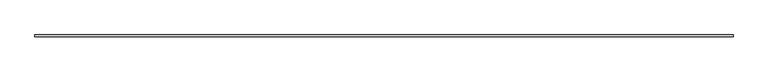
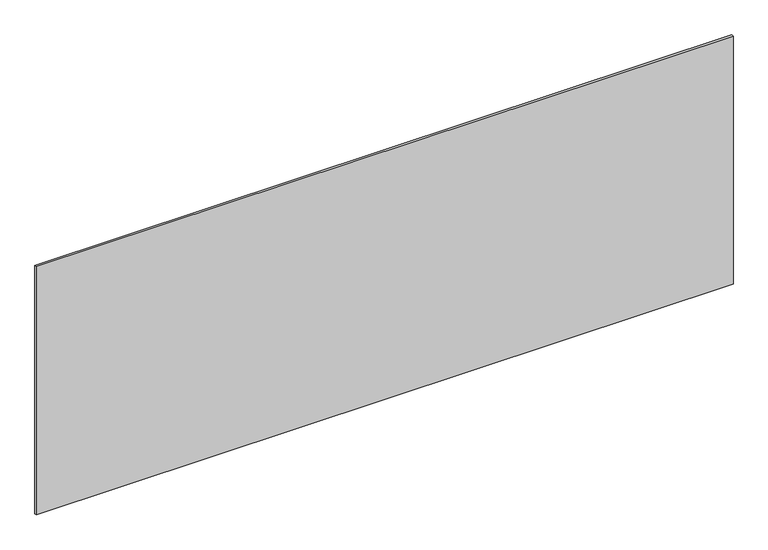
"""IFC4 building model written with IfcOpenShell, lengths in millimetres: plate geometry, システム パネル : 標準."""

from ifc_helpers import new_model, si_unit, origin, origin_with_axes, place, context, project, spatial, polyline, outline, extrude, source, transform, mapped, element, save


def plate_61a0db6e(model_context):
    return source(origin(), model_context, "Body", "SweptSolid", [
        extrude(outline(polyline([(1715.0, -5.0), (-1715.0, -5.0), (-1715.0, 5.0), (1715.0, 5.0), (1715.0, -5.0)])), origin_with_axes(), (0.0, 0.0, 1.0), 1292.4387729),
    ])


if __name__ == "__main__":
    model = new_model("IFC4")
    model_context = context("Model", 3, world=origin())
    ifc_project = project(units=[si_unit("LENGTHUNIT", "METRE", prefix="MILLI")], contexts=[model_context])
    site = spatial("IfcSite", under=ifc_project)
    building = spatial("IfcBuilding", under=site)
    placement = place(None, origin())
    plate_shape = plate_61a0db6e(model_context)
    element("IfcPlate", 1, ObjectType="システム パネル : 標準", at=placement, inside=building, context=model_context, shape_type="MappedRepresentation", body=[
        mapped(plate_shape, transform((0.0, 0.0, 0.0), x_axis=(1.0, 0.0, 0.0), y_axis=(0.0, 1.0, 0.0), z_axis=(0.0, 0.0, 1.0))),
    ])
    save(model, "model.ifc")
